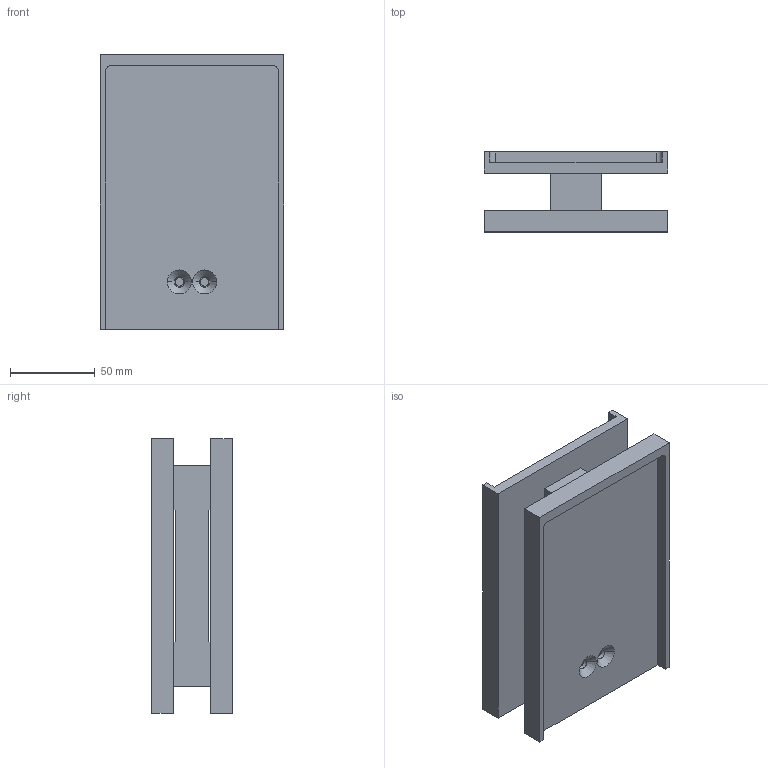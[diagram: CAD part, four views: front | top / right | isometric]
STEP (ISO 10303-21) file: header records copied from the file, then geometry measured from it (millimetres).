
FILE_DESCRIPTION (( 'STEP AP203' ), '1' );
FILE_NAME ('4x6-scale.STEP', '2020-04-14T03:24:00', ( '' ), ( '' ), 'SwSTEP 2.0', 'SolidWorks 2016', '' );
FILE_SCHEMA (( 'CONFIG_CONTROL_DESIGN' ));
Length unit declared in the file: inch
Products named in the file (3): 500-02648-Holder, Bin, Machined, Resistive, AM220 (Mini); 4x6-scale; rsp1_upto 50 kg
Assembly tree (3 placements, depth 2):
  4x6-scale
    rsp1_upto 50 kg
    500-02648-Holder, Bin, Machined, Resistive, AM220 (Mini)  x2
Bounding box: 107.95 x 47.4 x 161.97 mm (x, y, z)
Volume: 294966.4 mm3; surface area: 105317.3 mm2
Topology: 3 solids, 3 shells, 80 faces, 208 edges, 136 vertices
Faces by surface type: plane 44, cylinder 28, cone 8
Entity records: 1943 total; most frequent: DIRECTION 288, CARTESIAN_POINT 279, ORIENTED_EDGE 268, EDGE_CURVE 134, AXIS2_PLACEMENT_3D 97, VECTOR 94, LINE 94, VERTEX_POINT 88
